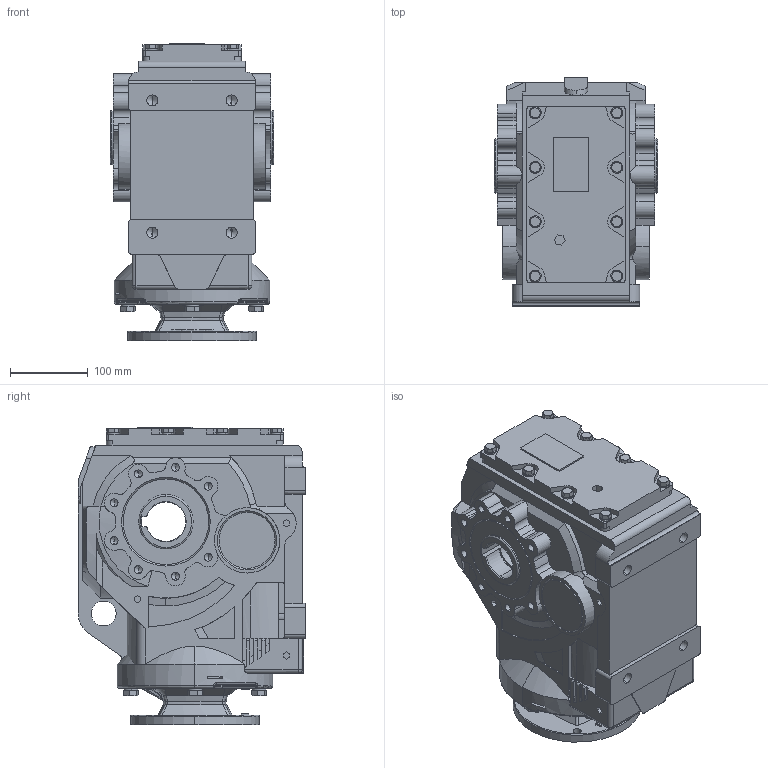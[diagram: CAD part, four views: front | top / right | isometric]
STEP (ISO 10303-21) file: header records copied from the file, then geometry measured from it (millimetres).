
FILE_DESCRIPTION (( 'STEP AP203' ), '1' );
FILE_NAME ('KAN77-143-5TC.STEP', '2022-04-09T02:22:18', ( 'user1' ), ( '' ), 'SwSTEP 2.0', 'SolidWorks 2012', '' );
FILE_SCHEMA (( 'CONFIG_CONTROL_DESIGN' ));
Length unit declared in the file: millimetre
Products named in the file (1): KAN77-143-5TC
Bounding box: 210 x 293 x 382.5 mm (x, y, z)
Volume: 13827715.4 mm3; surface area: 547897.8 mm2
Topology: 1 solids, 1 shells, 1325 faces, 3473 edges, 2202 vertices
Faces by surface type: plane 645, cylinder 420, cone 146, bspline 94, torus 18, sphere 2
Entity records: 48508 total; most frequent: CARTESIAN_POINT 16439, ORIENTED_EDGE 6858, DIRECTION 6413, EDGE_CURVE 3429, AXIS2_PLACEMENT_3D 2248, VERTEX_POINT 2202, LINE 1917, VECTOR 1917
